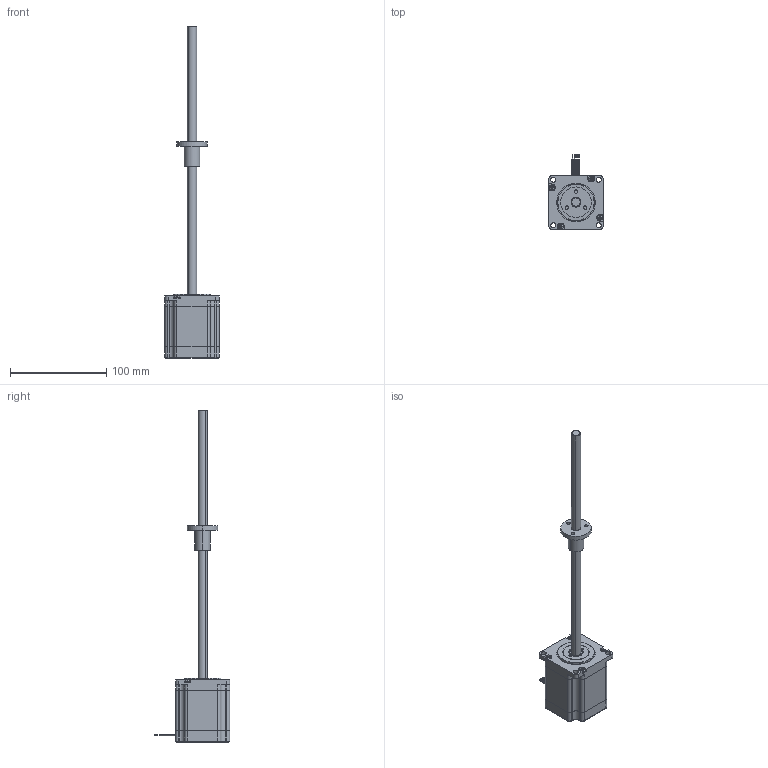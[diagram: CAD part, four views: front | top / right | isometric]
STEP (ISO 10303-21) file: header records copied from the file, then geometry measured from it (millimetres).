
FILE_DESCRIPTION (( 'STEP AP203' ), '1' );
FILE_NAME ('57双叠厚外驱.STEP', '2014-09-12T05:42:40', ( 'user' ), ( 'pxctfys' ), 'SwSTEP 2.0', 'SolidWorks 2012', '' );
FILE_SCHEMA (( 'CONFIG_CONTROL_DESIGN' ));
Length unit declared in the file: millimetre
Products named in the file (1): 57双叠厚外驱
Bounding box: 56.26 x 78.33 x 344.5 mm (x, y, z)
Surface area: 39341.4 mm2 (no closed solid volume)
Topology: 0 solids, 29 shells, 340 faces, 1283 edges, 971 vertices
Faces by surface type: plane 158, cylinder 143, torus 28, cone 11
Entity records: 14006 total; most frequent: CARTESIAN_POINT 2845, DIRECTION 2465, ORIENTED_EDGE 2008, EDGE_CURVE 1283, VERTEX_POINT 971, AXIS2_PLACEMENT_3D 903, VECTOR 659, LINE 659
